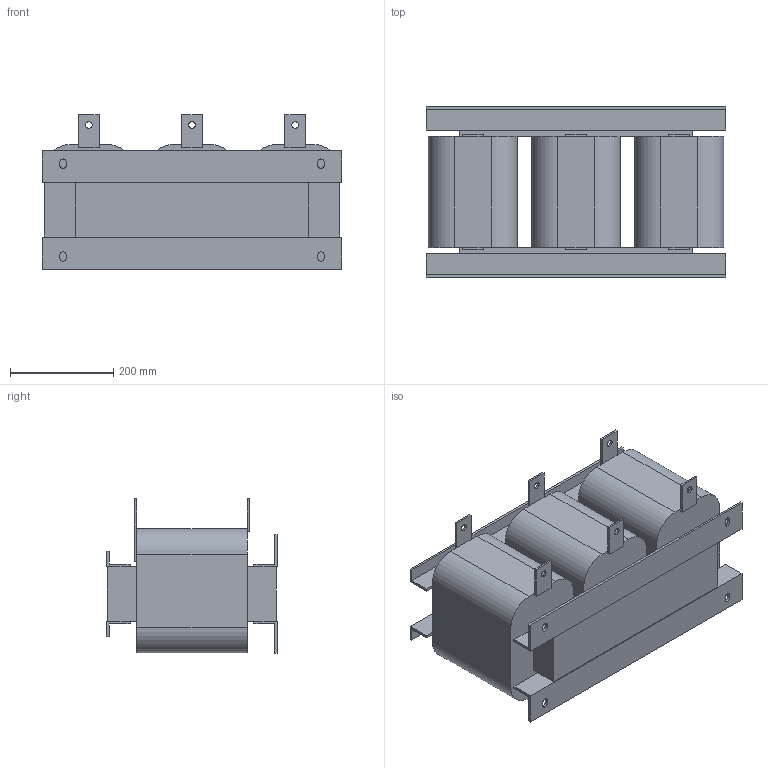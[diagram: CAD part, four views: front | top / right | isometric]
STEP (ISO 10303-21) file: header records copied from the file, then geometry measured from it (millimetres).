
FILE_DESCRIPTION(/* description */ (''),/* implementation_level */ '2;1');
FILE_NAME(/* name */ 'ACO-0345-T6-4.stp',/* time_stamp */ '2025-01-23T16:29:24+04:00',/* author */ ('Александр (огранич)'),/* organization */ (''),/* preprocessor_version */ 'ST-DEVELOPER v19.2',/* originating_system */ 'Autodesk Inventor 2024',/* authorisation */ '');
FILE_SCHEMA (('AUTOMOTIVE_DESIGN { 1 0 10303 214 3 1 1 }'));
Length unit declared in the file: millimetre
Products named in the file (1): ACO-0015-T4-4
Bounding box: 580 x 330 x 300 mm (x, y, z)
Volume: 31774497.9 mm3; surface area: 1163653 mm2
Topology: 1 solids, 1 shells, 136 faces, 378 edges, 240 vertices
Faces by surface type: plane 110, cylinder 26
Full cylindrical faces by diameter (mm): 13 x6
Entity records: 4357 total; most frequent: ORIENTED_EDGE 756, CARTESIAN_POINT 755, DIRECTION 704, EDGE_CURVE 378, LINE 326, VECTOR 326, VERTEX_POINT 240, AXIS2_PLACEMENT_3D 189
